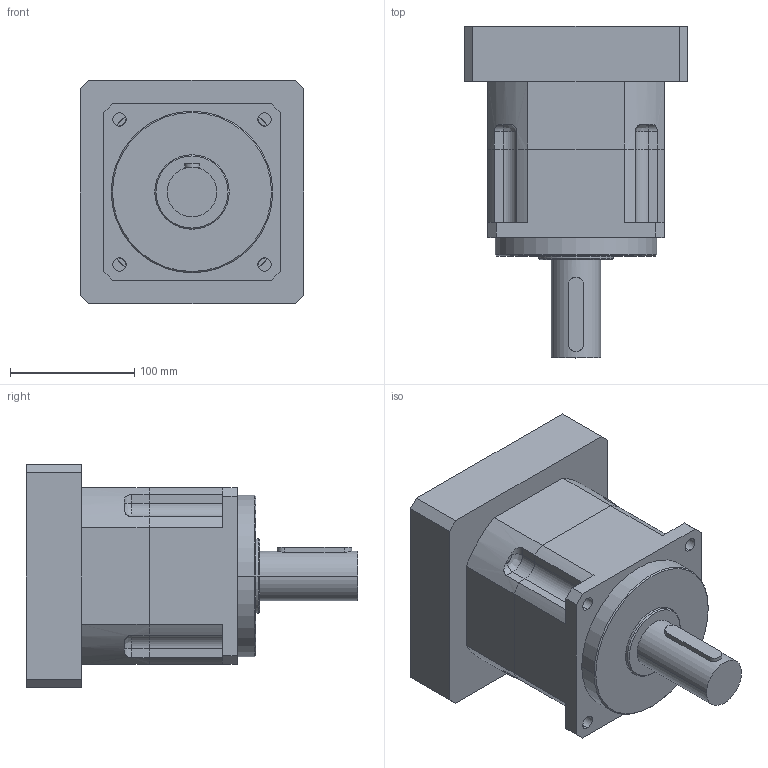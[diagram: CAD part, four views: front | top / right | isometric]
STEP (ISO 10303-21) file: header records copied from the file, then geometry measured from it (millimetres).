
FILE_DESCRIPTION (( 'STEP AP214' ), '1' );
FILE_NAME ('PAB142-L1-S2-P2 35-114.STEP', '2019-12-10T07:58:06', ( '微软用户' ), ( '微软中国' ), 'SwSTEP 2.0', 'SolidWorks 2014', '' );
FILE_SCHEMA (( 'AUTOMOTIVE_DESIGN' ));
Length unit declared in the file: millimetre
Products named in the file (2): PAB142-L1-S2-P2 35-114
Bounding box: 180 x 267 x 180 mm (x, y, z)
Volume: 3742393.8 mm3; surface area: 273879.2 mm2
Topology: 2 solids, 2 shells, 775 faces, 2207 edges, 1462 vertices
Faces by surface type: plane 630, cylinder 64, bspline 64, cone 17
Entity records: 33954 total; most frequent: CARTESIAN_POINT 5626, ORIENTED_EDGE 4398, DIRECTION 3623, EDGE_CURVE 2199, VECTOR 1917, LINE 1917, VERTEX_POINT 1462, AXIS2_PLACEMENT_3D 853
